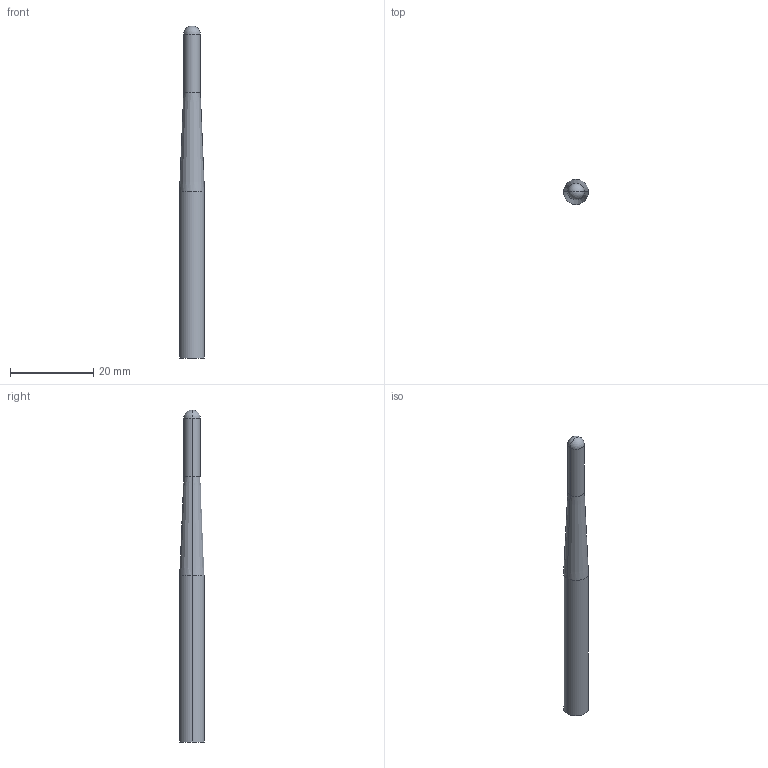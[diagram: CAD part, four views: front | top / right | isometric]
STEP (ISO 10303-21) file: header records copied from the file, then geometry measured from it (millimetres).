
FILE_DESCRIPTION(('STEP AP214'),'1');
FILE_NAME('cctmp_103B969C-41A9-4E7C-8524-A5523B758624_2020_10_01_07_31_50_0338..stp','2020-10-01T05:31:50',('Meusburger Georg GmbH & Co KG'),('CADClick - www.CADClick.com'),'Spatial InterOp 3D',' ','unknown authorization');
FILE_SCHEMA(('AUTOMOTIVE_DESIGN { 1 0 10303 214 1 1 1 1 }'));
Length unit declared in the file: millimetre
Products named in the file (1): WZF18428_4
Bounding box: 6 x 6 x 79.99 mm (x, y, z)
Volume: 1801.1 mm3; surface area: 1360.5 mm2
Topology: 1 solids, 1 shells, 9 faces, 18 edges, 9 vertices
Faces by surface type: cylinder 4, cone 2, sphere 2, plane 1
Entity records: 316 total; most frequent: DIRECTION 46, CARTESIAN_POINT 35, ORIENTED_EDGE 32, AXIS2_PLACEMENT_3D 20, EDGE_CURVE 16, STYLED_ITEM 10, PRESENTATION_STYLE_ASSIGNMENT 10, SURFACE_STYLE_USAGE 10
